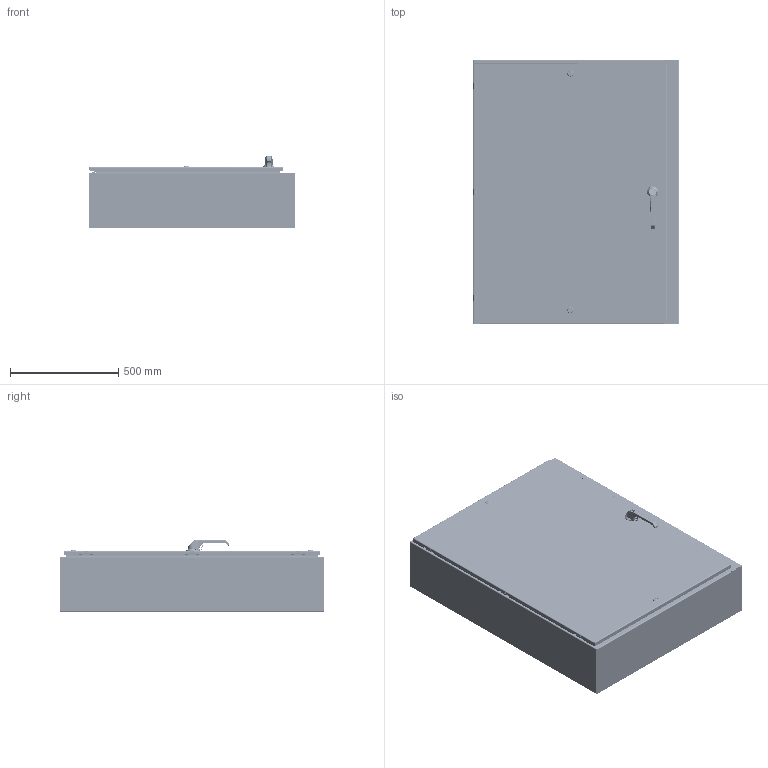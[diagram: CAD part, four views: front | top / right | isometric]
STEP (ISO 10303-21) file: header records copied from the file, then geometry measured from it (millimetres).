
FILE_DESCRIPTION((''),'2;1');
FILE_NAME('MODEL-315_ASM','2021-05-12T13:01:28',('mikek'),('SAGINAW CONTROL & ENGINEERING'),'CREO PARAMETRIC BY PTC INC, 2017260','CREO PARAMETRIC BY PTC INC, 2017260','');
FILE_SCHEMA(('AUTOMOTIVE_DESIGN { 1 0 10303 214 1 1 1 1 }'));
Length unit declared in the file: inch
Products named in the file (56): MODEL-315-BDY; MODEL-315-TP; MODEL-315-BTM; MODEL-315-DR; 100837; 100882; 111267; 100794_SHAFT; 100794_INSERT; 100794_CAM; 100794_NUT; 100794_SCREW; 100794_ASM; 100952_HANDLE; 100952_HANDLE_INSERT; 100952_SHAFT_CAM; 100952_ADAPTER_CAM; 100952_NUT_CAM; 100952_BASE; 100952_O-RING; 100952_WASHER_SEALING; 100952_NUT_MOUNTING_LARGE; 100952_NUT_MOUNTING_SMALL; 100952_SCREW_SMALL; 100952_INSERT; 100952_PADLOCK_CATCH; 100952_ASM; 102237; 100030; 102237_ASM; MODEL-315-ROD-UPR; 128146; 128145; 128144; 102482; MODEL-315-ROD-UPR_ASM; 128143; 112504; MODEL-315-ROD-LWR; MODEL-315-ROD-LWR_ASM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
Assembly tree (108 placements, depth 4):
  MODEL-315_ASM
    MODEL-315-BDY
    MODEL-315-TP
    MODEL-315-BTM
    MODEL-315-DR-ASSY_ASM
      MODEL-315-DR
      100837  x7
      100882  x4
      111267
      100794_ASM  x2
        100794_SHAFT
        100794_INSERT
        100794_CAM
        100794_NUT
        100794_SCREW
      100952_ASM
        100952_HANDLE
        100952_HANDLE_INSERT
        100952_SHAFT_CAM
        100952_ADAPTER_CAM
        100952_NUT_CAM
        100952_BASE
        100952_O-RING
        100952_WASHER_SEALING
        100952_NUT_MOUNTING_LARGE
        100952_NUT_MOUNTING_SMALL
        100952_SCREW_SMALL
        100952_INSERT
        100952_PADLOCK_CATCH
      102237_ASM
        102237
        100030  x2
      MODEL-315-ROD-UPR_ASM
        MODEL-315-ROD-UPR
        128146
        128145
        128144
        102482  x2
      128143  x2
      112504  x2
      MODEL-315-ROD-LWR_ASM
        MODEL-315-ROD-LWR
        128146
        128145
        128144
        102482  x2
      MODEL-315-POUR-GSKT
      126392_ASM  x3
        126392
        126397
      126395  x3
      102483  x9
      101226  x3
      101389  x3
      102140  x3
    100837  x2
    101653  x8
    122193
    SUBPANEL-SUBASSEMBLY_ASM
      SUBPANEL
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Bounding box: 949.33 x 1219.2 x 331.13 mm (x, y, z)
Volume: 11081450.9 mm3; surface area: 9888415.9 mm2
Topology: 105 solids, 105 shells, 7843 faces, 19709 edges, 12147 vertices
Faces by surface type: plane 2965, cylinder 2153, bspline 1217, torus 627, cone 623, sphere 258
Entity records: 227541 total; most frequent: CARTESIAN_POINT 74614, ORIENTED_EDGE 22304, DIRECTION 20825, PRESENTATION_STYLE_ASSIGNMENT 11610, EDGE_CURVE 11152, STYLED_ITEM 11135, CURVE_STYLE 10990, AXIS2_PLACEMENT_3D 7753
